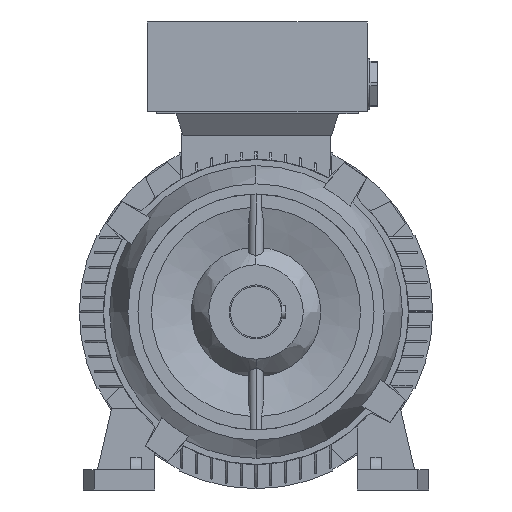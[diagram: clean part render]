
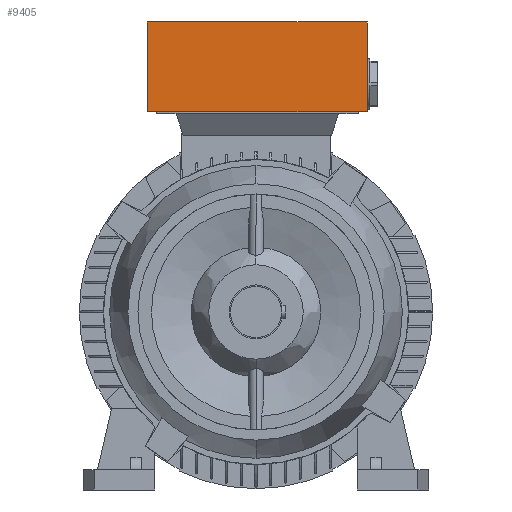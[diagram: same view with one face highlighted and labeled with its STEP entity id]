
A CAD part, left-side view. The second image highlights one B-rep face of the part: STEP entity #9405.
In plain terms, the highlighted planar face has unit normal (-1, 0, 0).
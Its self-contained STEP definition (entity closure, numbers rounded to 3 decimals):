
#2175 = CARTESIAN_POINT ( 'NONE',  ( -2., 80.5, 215. ) ) ;
#2178 = CARTESIAN_POINT ( 'NONE',  ( -2., -82.5, 215. ) ) ;
#2187 = CARTESIAN_POINT ( 'NONE',  ( -2., 80.5, 148.5 ) ) ;
#2190 = CARTESIAN_POINT ( 'NONE',  ( -2., -82.5, 148.5 ) ) ;
#4016 = VERTEX_POINT ( 'NONE', #2175 ) ;
#4018 = VERTEX_POINT ( 'NONE', #2178 ) ;
#4023 = VERTEX_POINT ( 'NONE', #2187 ) ;
#4025 = VERTEX_POINT ( 'NONE', #2190 ) ;
#4371 = EDGE_LOOP ( 'NONE', ( #22729, #22730, #22731, #22732 ) ) ;
#9405 = ADVANCED_FACE ( 'NONE', ( #23062 ), #24255, .F. ) ;
#11088 = LINE ( 'NONE', #13254, #11091 ) ;
#11091 = VECTOR ( 'NONE', #13256, 1000. ) ;
#11149 = LINE ( 'NONE', #13332, #11163 ) ;
#11163 = VECTOR ( 'NONE', #13349, 1000. ) ;
#11216 = LINE ( 'NONE', #13474, #11219 ) ;
#11219 = VECTOR ( 'NONE', #13475, 1000. ) ;
#11233 = LINE ( 'NONE', #13486, #11242 ) ;
#11242 = VECTOR ( 'NONE', #13498, 1000. ) ;
#13254 = CARTESIAN_POINT ( 'NONE',  ( -2., 80.5, 181.75 ) ) ;
#13256 = DIRECTION ( 'NONE',  ( 0., 0., -1. ) ) ;
#13332 = CARTESIAN_POINT ( 'NONE',  ( -2., -82.5, 181.75 ) ) ;
#13349 = DIRECTION ( 'NONE',  ( 0., 0., -1. ) ) ;
#13474 = CARTESIAN_POINT ( 'NONE',  ( -2., -1., 148.5 ) ) ;
#13475 = DIRECTION ( 'NONE',  ( 0., 1., 0. ) ) ;
#13486 = CARTESIAN_POINT ( 'NONE',  ( -2., -1., 215. ) ) ;
#13498 = DIRECTION ( 'NONE',  ( 0., -1., 0. ) ) ;
#19016 = AXIS2_PLACEMENT_3D ( 'NONE', #24257, #24261, #24262 ) ;
#21979 = EDGE_CURVE ( 'NONE', #4016, #4023, #11088, .T. ) ;
#22020 = EDGE_CURVE ( 'NONE', #4018, #4025, #11149, .T. ) ;
#22054 = EDGE_CURVE ( 'NONE', #4025, #4023, #11216, .T. ) ;
#22066 = EDGE_CURVE ( 'NONE', #4016, #4018, #11233, .T. ) ;
#22729 = ORIENTED_EDGE ( 'NONE', *, *, #22020, .F. ) ;
#22730 = ORIENTED_EDGE ( 'NONE', *, *, #22066, .F. ) ;
#22731 = ORIENTED_EDGE ( 'NONE', *, *, #21979, .T. ) ;
#22732 = ORIENTED_EDGE ( 'NONE', *, *, #22054, .F. ) ;
#23062 = FACE_OUTER_BOUND ( 'NONE', #4371, .T. ) ;
#24255 = PLANE ( 'NONE',  #19016 ) ;
#24257 = CARTESIAN_POINT ( 'NONE',  ( -2., -1., 181.75 ) ) ;
#24261 = DIRECTION ( 'NONE',  ( 1., 0., 0. ) ) ;
#24262 = DIRECTION ( 'NONE',  ( 0., 0., -1. ) ) ;
